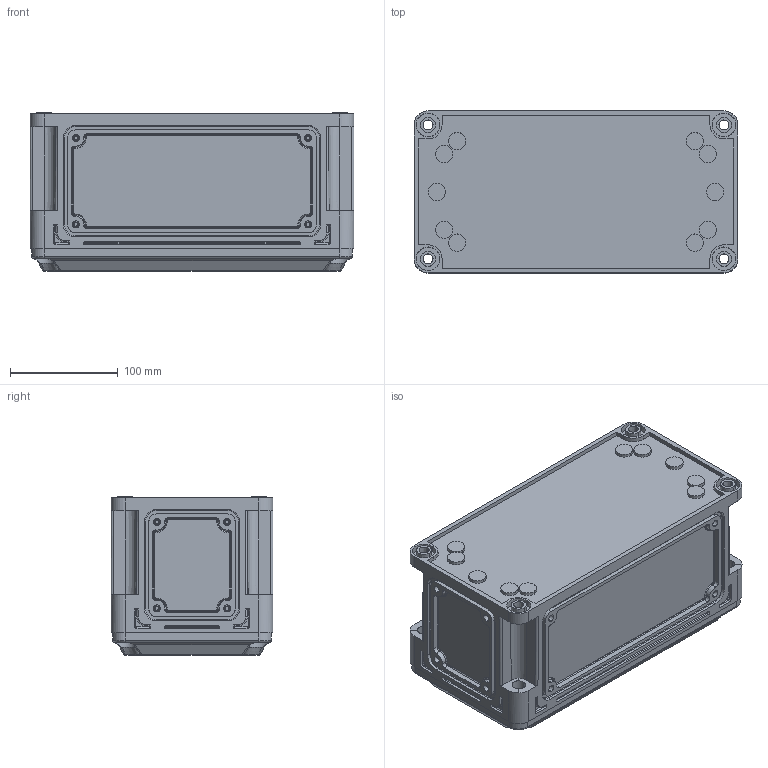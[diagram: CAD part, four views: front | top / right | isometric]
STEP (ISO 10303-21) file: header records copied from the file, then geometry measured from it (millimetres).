
FILE_DESCRIPTION (( 'STEP AP203' ), '1' );
FILE_NAME ('531210.STEP', '2024-04-08T14:57:06', ( '' ), ( '' ), 'SwSTEP 2.0', 'SolidWorks 2022', '' );
FILE_SCHEMA (( 'CONFIG_CONTROL_DESIGN' ));
Length unit declared in the file: millimetre
Products named in the file (3): TPA.02.0044.00.00.0; TPA.02.0062.00.00.0; 531210
Assembly tree (2 placements, depth 2):
  531210
    TPA.02.0044.00.00.0
    TPA.02.0062.00.00.0
Bounding box: 300 x 150 x 147 mm (x, y, z)
Volume: 750009.1 mm3; surface area: 477799.2 mm2
Topology: 2 solids, 2 shells, 1956 faces, 5046 edges, 3182 vertices
Faces by surface type: plane 746, cone 503, bspline 359, cylinder 216, torus 112, sphere 20
Entity records: 89312 total; most frequent: CARTESIAN_POINT 43698, ORIENTED_EDGE 9924, DIRECTION 8647, EDGE_CURVE 4962, VERTEX_POINT 3178, AXIS2_PLACEMENT_3D 3033, VECTOR 2581, LINE 2581
